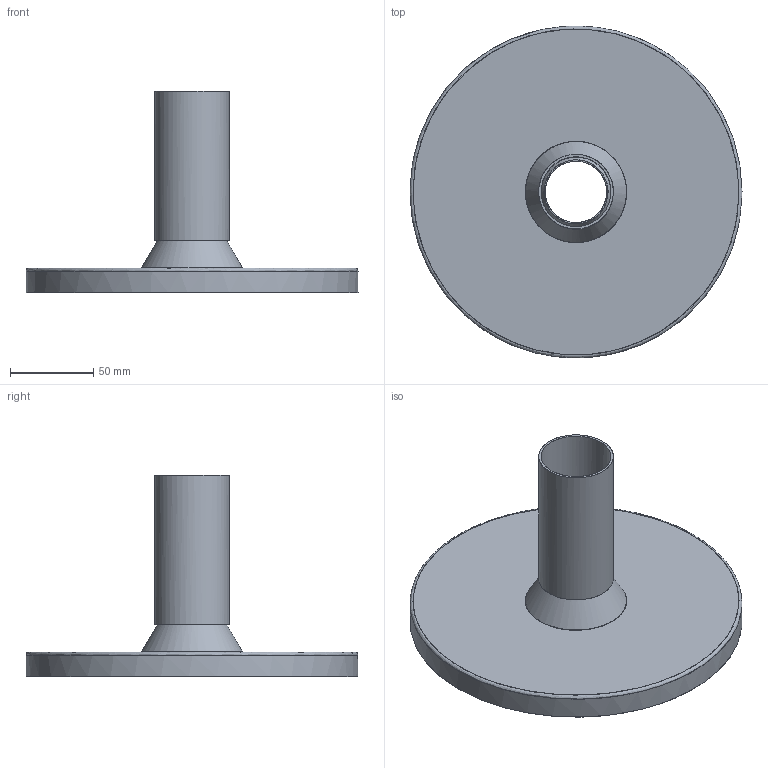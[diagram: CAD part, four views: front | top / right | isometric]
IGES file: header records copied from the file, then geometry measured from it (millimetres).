
Start section: SolidWorks IGES file using NURBS representation for surfaces
Global section: file name: Z:\Modele 3D_WWW\_CAMELEON\KLOSZE I OPRAWY WWW\HERMANOS-B-8035\CAMELEON-HERMANOS-B-8035.IGS; native system: SolidWorks 2021; preprocessor: SolidWorks 2021; author: gabriela.tworek; date: 220317.125759; units: millimetre
Bounding box: 200 x 199.92 x 121.67 mm (x, y, z)
Surface area: 109114.8 mm2 (no closed solid volume)
Topology: 0 solids, 0 shells, 20 faces, 94 edges, 80 vertices
Faces by surface type: bspline 20
